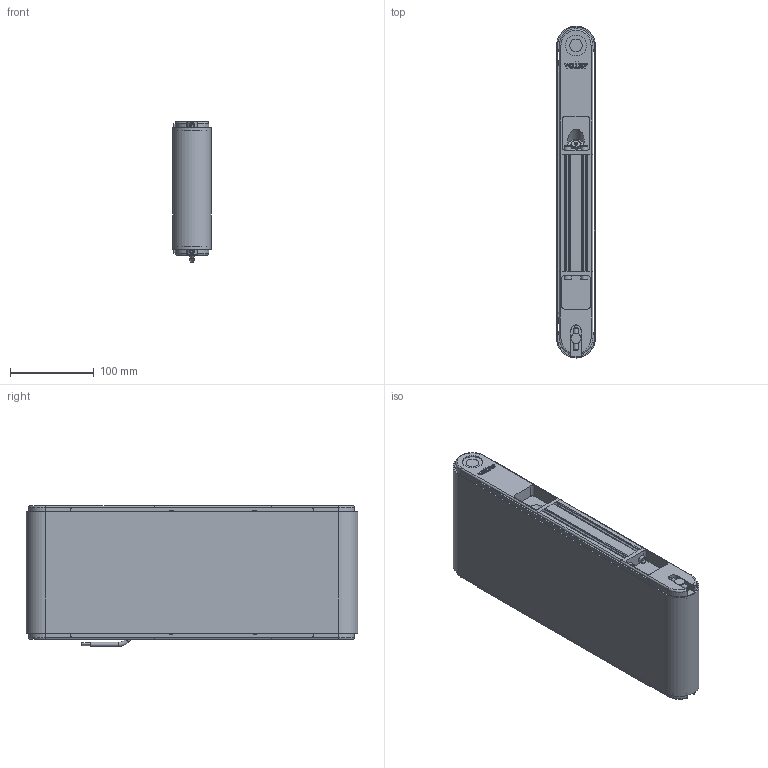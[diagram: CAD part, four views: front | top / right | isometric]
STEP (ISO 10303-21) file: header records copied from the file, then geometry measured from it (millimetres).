
FILE_DESCRIPTION(/* description */ (''),/* implementation_level */ '2;1');
FILE_NAME(/* name */ 'G:\DATEN\CAD\Förderband\Marketing\3D-Modelle (Standard)\FR-40-160\FR-40-160-350-K.stp',/* time_stamp */ '2019-05-08T09:02:40+02:00',/* author */ ('melanie.ochs'),/* organization */ (''),/* preprocessor_version */ 'ST-DEVELOPER v17',/* originating_system */ 'Autodesk Inventor 2019',/* authorisation */ '');
FILE_SCHEMA (('CONFIG_CONTROL_DESIGN'));
Length unit declared in the file: millimetre
Products named in the file (1): FR-40-160-350-K
Bounding box: 46.6 x 396.6 x 168.53 mm (x, y, z)
Volume: 1690419.9 mm3; surface area: 421022.5 mm2
Topology: 6 solids, 25 shells, 996 faces, 2706 edges, 1807 vertices
Faces by surface type: plane 511, cylinder 276, bspline 122, cone 62, torus 25
Full cylindrical faces by diameter (mm): 2 x2, 4 x6, 4.3 x4, 4.917 x1, 5 x11, 5.5 x8, 6 x4, 6.5 x1, 6.647 x3, 8 x4, 8.3 x4, 8.5 x8, 8.773 x1, 10 x1, 11 x1, 12 x5, 15 x2, 20 x4, 25 x2, 28 x4
Entity records: 33862 total; most frequent: CARTESIAN_POINT 8069, ORIENTED_EDGE 5382, DIRECTION 4856, EDGE_CURVE 2691, VERTEX_POINT 1807, AXIS2_PLACEMENT_3D 1682, LINE 1492, VECTOR 1492
